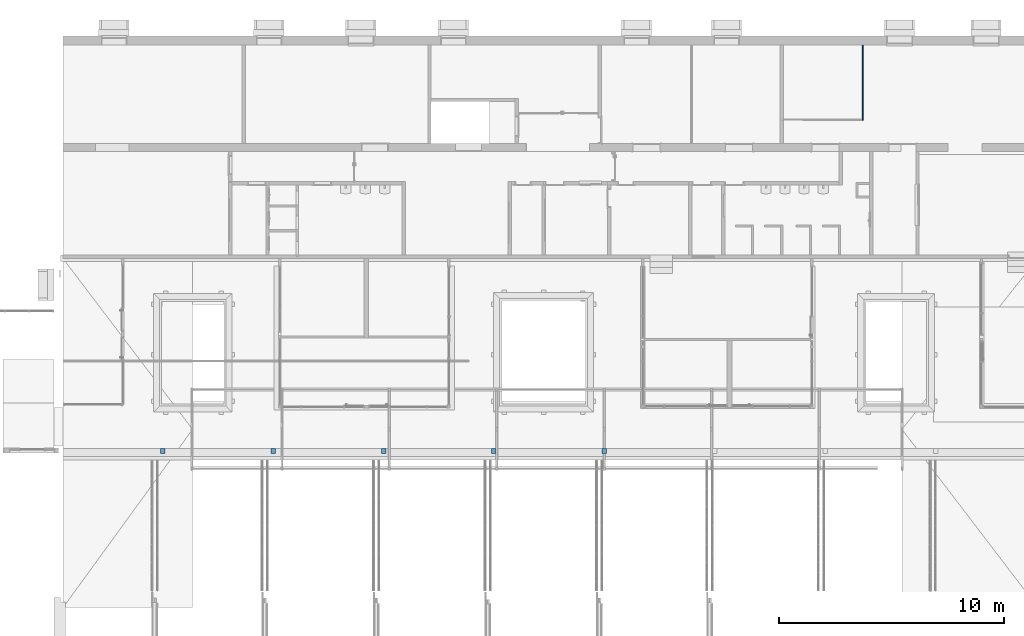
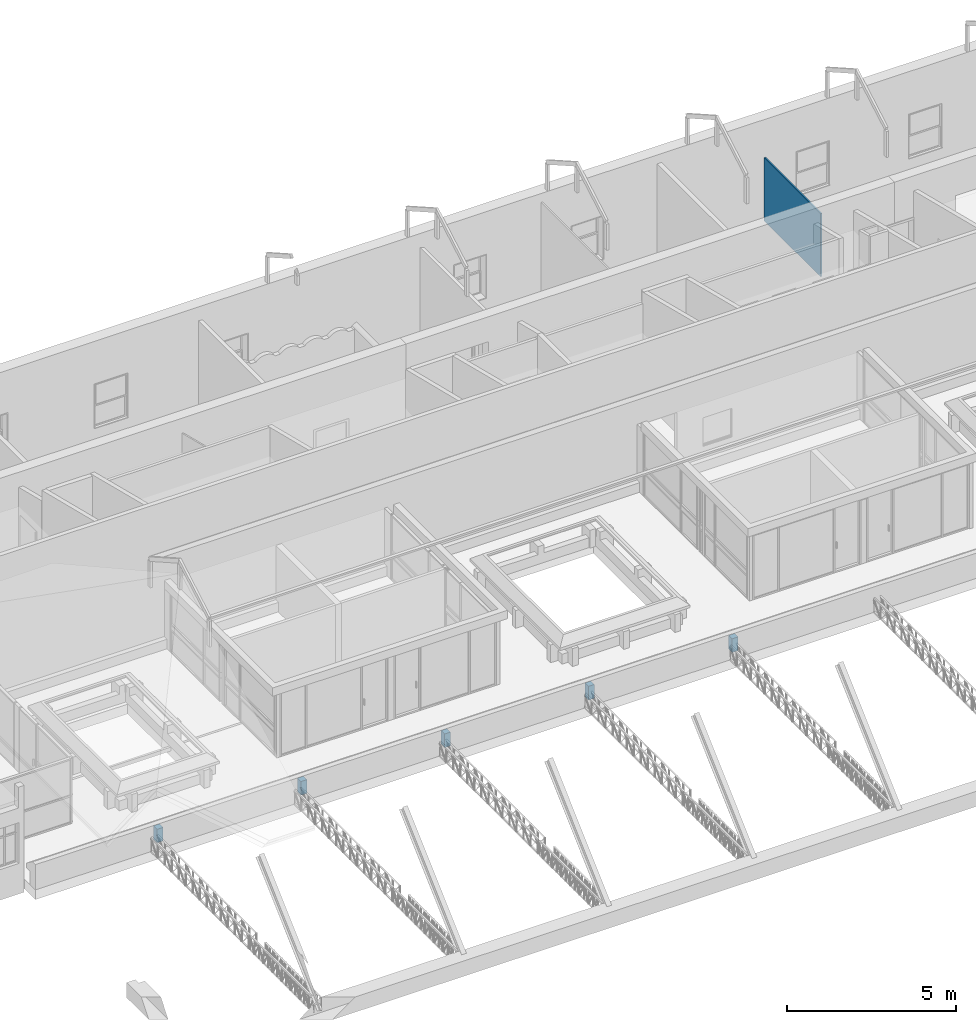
# One storey, part 123 of 153: 6 walls.
"""IFC4 building model written with IfcOpenShell, lengths in metres."""

from ifc_helpers import new_model, entity, si_unit, converted_unit, derived_unit, direction, frame, origin, place, context, subcontext, project, spatial, indexed_curve, outline, extrude, material, type_object, element, save


model = new_model("IFC4")

# Units and contexts
model_context = context("Model", 3, precision=1e-05, world=origin(), true_north=direction((6.123031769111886e-17, 1.0)))
body_context = subcontext(model_context, "Body", "Model", "MODEL_VIEW")
ifc_project = project(units=[si_unit("LENGTHUNIT", "METRE"), si_unit("AREAUNIT", "SQUARE_METRE"), si_unit("VOLUMEUNIT", "CUBIC_METRE"), converted_unit("PLANEANGLEUNIT", "DEGREE", entity("IfcRatioMeasure", 0.017453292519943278), si_unit("PLANEANGLEUNIT", "RADIAN"), dimensions=[0, 0, 0, 0, 0, 0, 0]), si_unit("MASSUNIT", "GRAM", prefix="KILO"), derived_unit("MASSDENSITYUNIT", [(si_unit("MASSUNIT", "GRAM", prefix="KILO"), 1), (si_unit("LENGTHUNIT", "METRE"), -3)]), derived_unit("MOMENTOFINERTIAUNIT", [(si_unit("LENGTHUNIT", "METRE"), 4)]), si_unit("TIMEUNIT", "SECOND"), si_unit("FREQUENCYUNIT", "HERTZ"), si_unit("THERMODYNAMICTEMPERATUREUNIT", "DEGREE_CELSIUS"), derived_unit("THERMALTRANSMITTANCEUNIT", [(si_unit("MASSUNIT", "GRAM", prefix="KILO"), 1), (si_unit("THERMODYNAMICTEMPERATUREUNIT", "KELVIN"), -1), (si_unit("TIMEUNIT", "SECOND"), -3)]), derived_unit("VOLUMETRICFLOWRATEUNIT", [(si_unit("LENGTHUNIT", "METRE"), 3), (si_unit("TIMEUNIT", "SECOND"), -1)]), derived_unit("MASSFLOWRATEUNIT", [(si_unit("MASSUNIT", "GRAM", prefix="KILO"), 1), (si_unit("TIMEUNIT", "SECOND"), -1)]), derived_unit("ROTATIONALFREQUENCYUNIT", [(si_unit("TIMEUNIT", "SECOND"), -1)]), si_unit("ELECTRICCURRENTUNIT", "AMPERE"), si_unit("ELECTRICVOLTAGEUNIT", "VOLT"), si_unit("POWERUNIT", "WATT"), si_unit("FORCEUNIT", "NEWTON", prefix="KILO"), si_unit("ILLUMINANCEUNIT", "LUX"), si_unit("LUMINOUSFLUXUNIT", "LUMEN"), si_unit("LUMINOUSINTENSITYUNIT", "CANDELA"), derived_unit("USERDEFINED", [(si_unit("MASSUNIT", "GRAM", prefix="KILO"), -1), (si_unit("LENGTHUNIT", "METRE"), -2), (si_unit("TIMEUNIT", "SECOND"), 3), (si_unit("LUMINOUSFLUXUNIT", "LUMEN"), 1)]), derived_unit("SOUNDPOWERUNIT", [(si_unit("MASSUNIT", "GRAM", prefix="KILO"), 1), (si_unit("LENGTHUNIT", "METRE"), 2), (si_unit("TIMEUNIT", "SECOND"), -3)]), derived_unit("SOUNDPRESSUREUNIT", [(si_unit("MASSUNIT", "GRAM", prefix="KILO"), 1), (si_unit("LENGTHUNIT", "METRE"), -1), (si_unit("TIMEUNIT", "SECOND"), -2)]), derived_unit("LINEARVELOCITYUNIT", [(si_unit("LENGTHUNIT", "METRE"), 1), (si_unit("TIMEUNIT", "SECOND"), -1)]), si_unit("PRESSUREUNIT", "PASCAL"), derived_unit("USERDEFINED", [(si_unit("LENGTHUNIT", "METRE"), -2), (si_unit("MASSUNIT", "GRAM", prefix="KILO"), 1), (si_unit("TIMEUNIT", "SECOND"), -2)]), derived_unit("LINEARFORCEUNIT", [(si_unit("MASSUNIT", "GRAM", prefix="KILO"), 1), (si_unit("LENGTHUNIT", "METRE"), 1), (si_unit("TIMEUNIT", "SECOND"), -2), (si_unit("LENGTHUNIT", "METRE"), -1)]), derived_unit("PLANARFORCEUNIT", [(si_unit("MASSUNIT", "GRAM", prefix="KILO"), 1), (si_unit("LENGTHUNIT", "METRE"), 1), (si_unit("TIMEUNIT", "SECOND"), -2), (si_unit("LENGTHUNIT", "METRE"), -2)])], contexts=[model_context])

# Site, building, storey
site_placement = place(None, origin())
site = spatial("IfcSite", under=ifc_project, at=site_placement, Name="Superficie", CompositionType="ELEMENT")
building_placement = place(site_placement, origin())
building = spatial("IfcBuilding", under=site, at=building_placement, CompositionType="ELEMENT")
storey_placement = place(building_placement, frame((0.0, 0.0, 3.5999999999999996)))
storey = spatial("IfcBuildingStorey", under=building, at=storey_placement, Name="Nivel 1", CompositionType="ELEMENT", Elevation=3.5999999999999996)

# Walls
ifc_material = material(Name="Muro por defecto", Category="Varios")
wall_type_1 = type_object("IfcWallType", Name="Muro básico:Por defecto - 20 cm", PredefinedType="STANDARD")
for number, where, z_axis, x_axis, name in (
    (1, (1.38679901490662, -3.0336067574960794, 0.0), (0.0, 0.0, 1.0), (0.0, 1.0, 0.0), "Muro básico:Por defecto - 20 cm"),
    (2, (-3.5132009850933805, -3.033606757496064, 0.0), (0.0, 0.0, 1.0), (0.0, 1.0, 0.0), "Muro básico:Por defecto - 20 cm"),
    (3, (-8.41320098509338, -3.0336067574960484, 0.0), (0.0, 0.0, 1.0), (0.0, 1.0, 0.0), "Muro básico:Por defecto - 20 cm"),
):
    element("IfcWall", number, at=place(storey_placement, frame(where, z_axis=z_axis, x_axis=x_axis)), inside=storey, type_object=wall_type_1, material=ifc_material, Name=name, ObjectType="Muro básico:Por defecto - 20 cm", PredefinedType="NOTDEFINED", context=body_context, shape_type="SweptSolid", body=[
        extrude(outline(indexed_curve([(0.20999999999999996, 0.1), (5.156510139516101e-17, 0.1), (-5.156510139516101e-17, -0.1), (0.20999999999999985, -0.1), (0.20999999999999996, 0.1)], self_intersect=False)), origin(), (0.0, 0.0, 1.0), 0.49000000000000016),
    ])
for number, where, z_axis, x_axis, name in (
    (4, (-13.313200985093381, -3.0336067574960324, 0.0), (0.0, 0.0, 1.0), (0.0, 1.0, 0.0), "Muro básico:Por defecto - 20 cm"),
    (5, (-18.21320098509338, -3.033606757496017, 0.0), (0.0, 0.0, 1.0), (0.0, 1.0, 0.0), "Muro básico:Por defecto - 20 cm"),
):
    element("IfcWall", number, at=place(storey_placement, frame(where, z_axis=z_axis, x_axis=x_axis)), inside=storey, type_object=wall_type_1, material=ifc_material, Name=name, ObjectType="Muro básico:Por defecto - 20 cm", PredefinedType="NOTDEFINED", context=body_context, shape_type="SweptSolid", body=[
        extrude(outline(indexed_curve([(0.20999999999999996, 0.09999999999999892), (5.15651013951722e-17, 0.09999999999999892), (-5.15651013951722e-17, -0.09999999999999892), (0.20999999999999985, -0.09999999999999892), (0.20999999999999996, 0.09999999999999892)], self_intersect=False)), origin(), (0.0, 0.0, 1.0), 0.49000000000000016),
    ])
wall_type_2 = type_object("IfcWallType", Name="Muro básico:Por defecto - 5 cm 2", PredefinedType="STANDARD")
wall_placement = place(storey_placement, frame((12.861799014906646, 15.08582928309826, 0.5200000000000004), z_axis=(0.0, 0.0, 1.0), x_axis=(0.0, -1.0, 0.0)))
element("IfcWall", 6, at=wall_placement, inside=storey, type_object=wall_type_2, material=ifc_material, Name="Muro básico:Por defecto - 5 cm 2", ObjectType="Muro básico:Por defecto - 5 cm 2", PredefinedType="NOTDEFINED", context=body_context, shape_type="SweptSolid", body=[
    extrude(outline(indexed_curve([(3.3299999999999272, 0.025000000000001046), (-3.426794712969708e-17, 0.025000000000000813), (3.426794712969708e-17, -0.025000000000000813), (3.3299999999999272, -0.02500000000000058), (3.3299999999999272, 0.025000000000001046)], self_intersect=False)), origin(), (0.0, 0.0, 1.0), 2.2799999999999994),
])

save(model, "model.ifc")
